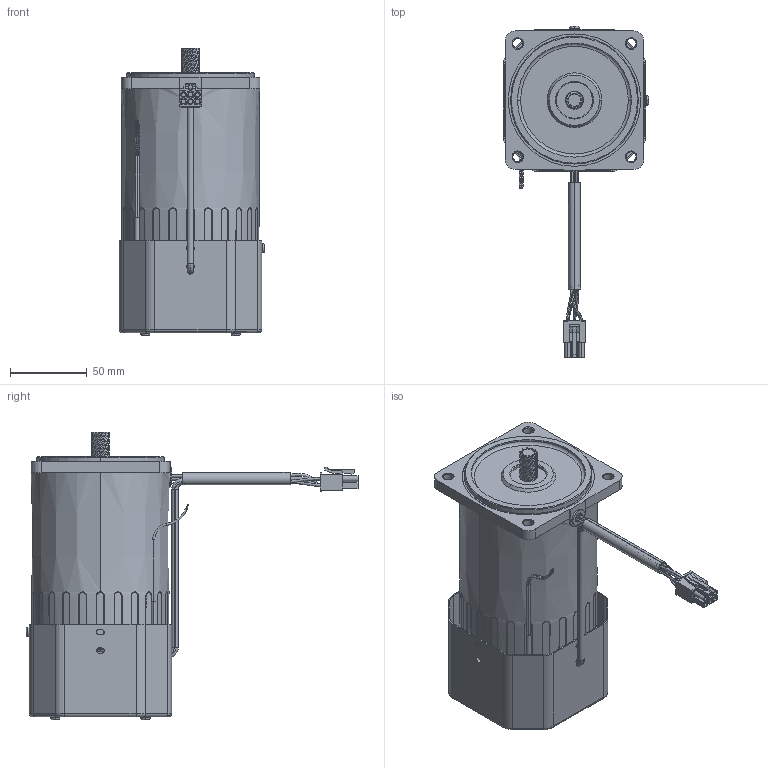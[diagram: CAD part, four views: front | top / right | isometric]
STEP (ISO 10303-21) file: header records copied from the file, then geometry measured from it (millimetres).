
FILE_DESCRIPTION (( 'STEP AP214' ), '1' );
FILE_NAME ('ACP-M-5IK90U-V.STEP', '2009-11-19T00:30:41', ( 'Tim Raines' ), ( 'Anaheim Automation' ), 'SwSTEP 2.0', 'SolidWorks 2009', '' );
FILE_SCHEMA (( 'AUTOMOTIVE_DESIGN' ));
Length unit declared in the file: millimetre
Products named in the file (1): ACP-M-5IK90U-V
Bounding box: 94.6 x 215.7 x 187 mm (x, y, z)
Volume: 814055.8 mm3; surface area: 135932.1 mm2
Topology: 4 solids, 4 shells, 1343 faces, 3462 edges, 2171 vertices
Faces by surface type: plane 475, cylinder 442, bspline 290, torus 108, cone 28
Entity records: 72523 total; most frequent: CARTESIAN_POINT 26839, ORIENTED_EDGE 6924, DIRECTION 6016, EDGE_CURVE 3462, AXIS2_PLACEMENT_3D 2309, VERTEX_POINT 2171, EDGE_LOOP 1459, VECTOR 1398
